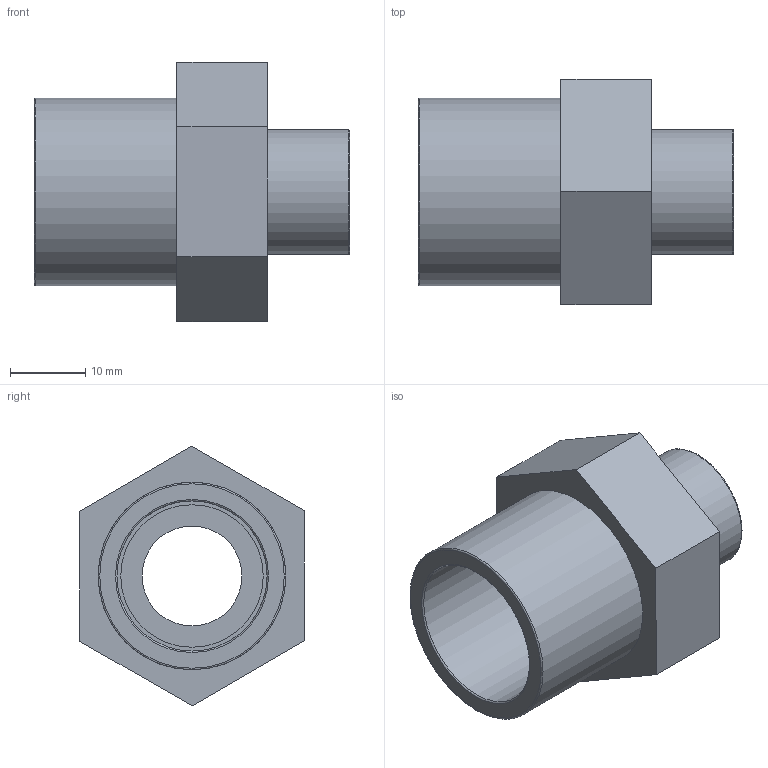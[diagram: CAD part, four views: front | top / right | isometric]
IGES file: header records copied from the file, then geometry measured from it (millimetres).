
Global section: file name: 052202020003.ipt; native system: Autodesk Inventor 2015; preprocessor: unknown; author: KIM; date: 20171207.165434; units: millimetre
Bounding box: 42 x 30.06 x 34.64 mm (x, y, z)
Volume: 10578.4 mm3; surface area: 6896.8 mm2
Topology: 1 solids, 1 shells, 21 faces, 55 edges, 40 vertices
Faces by surface type: plane 12, revolution 7, cylinder 2
Full cylindrical faces by diameter (mm): 16.662 x1, 25 x1
